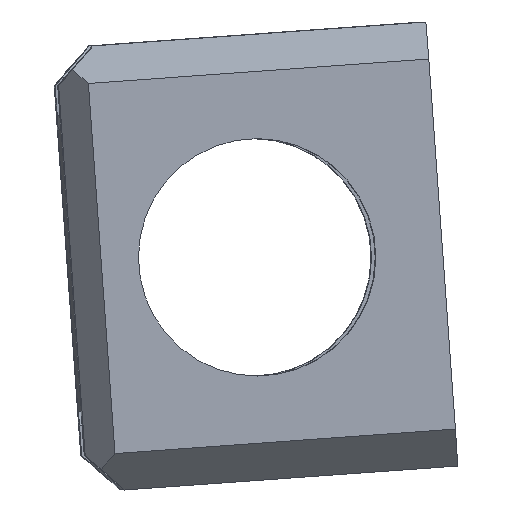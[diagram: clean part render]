
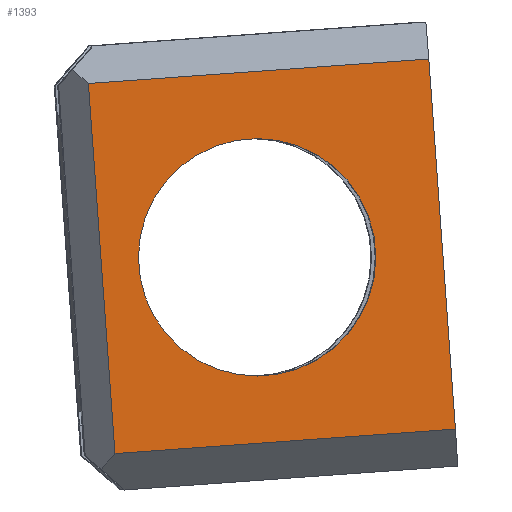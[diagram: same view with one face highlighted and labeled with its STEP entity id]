
A CAD part, left-side view. The second image highlights one B-rep face of the part: STEP entity #1393.
In plain terms, the highlighted planar face has unit normal (-1, -0.008, 0).
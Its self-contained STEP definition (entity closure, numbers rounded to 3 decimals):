
#45=FACE_BOUND('',#248,.T.);
#95=PLANE('',#1524);
#163=FACE_OUTER_BOUND('',#247,.T.);
#247=EDGE_LOOP('',(#1294,#1295,#1296,#1297));
#248=EDGE_LOOP('',(#1298));
#349=LINE('',#2228,#496);
#395=LINE('',#2401,#542);
#397=LINE('',#2404,#544);
#398=LINE('',#2406,#545);
#496=VECTOR('',#1773,10.);
#542=VECTOR('',#1893,10.);
#544=VECTOR('',#1897,10.);
#545=VECTOR('',#1900,10.);
#584=CIRCLE('',#1506,16.);
#680=VERTEX_POINT('',#2225);
#681=VERTEX_POINT('',#2227);
#700=VERTEX_POINT('',#2335);
#717=VERTEX_POINT('',#2398);
#718=VERTEX_POINT('',#2400);
#849=EDGE_CURVE('',#681,#680,#349,.T.);
#880=EDGE_CURVE('',#700,#700,#584,.T.);
#913=EDGE_CURVE('',#717,#718,#395,.T.);
#915=EDGE_CURVE('',#718,#680,#397,.T.);
#916=EDGE_CURVE('',#681,#717,#398,.T.);
#1294=ORIENTED_EDGE('',*,*,#915,.F.);
#1295=ORIENTED_EDGE('',*,*,#913,.F.);
#1296=ORIENTED_EDGE('',*,*,#916,.F.);
#1297=ORIENTED_EDGE('',*,*,#849,.T.);
#1298=ORIENTED_EDGE('',*,*,#880,.T.);
#1393=ADVANCED_FACE('',(#163,#45),#95,.T.);
#1506=AXIS2_PLACEMENT_3D('',#2337,#1830,#1831);
#1524=AXIS2_PLACEMENT_3D('',#2405,#1898,#1899);
#1773=DIRECTION('',(-0.001,0.072,0.997));
#1830=DIRECTION('center_axis',(1.,0.008,0.));
#1831=DIRECTION('ref_axis',(0.,0.,-1.));
#1893=DIRECTION('',(-0.001,0.072,0.997));
#1897=DIRECTION('',(0.008,-0.997,0.072));
#1898=DIRECTION('center_axis',(-1.,-0.008,
0.));
#1899=DIRECTION('ref_axis',(-0.001,0.072,0.997));
#1900=DIRECTION('',(-0.008,0.997,-0.072));
#2225=CARTESIAN_POINT('',(21.562,-334.771,571.724));
#2227=CARTESIAN_POINT('',(21.59,-338.355,521.852));
#2228=CARTESIAN_POINT('',(21.593,-338.713,516.865));
#2335=CARTESIAN_POINT('',(21.382,-311.628,560.996));
#2337=CARTESIAN_POINT('Origin',(21.382,-311.628,544.996));
#2398=CARTESIAN_POINT('',(21.234,-292.475,518.555));
#2400=CARTESIAN_POINT('',(21.206,-288.891,568.426));
#2401=CARTESIAN_POINT('',(21.228,-291.758,528.529));
#2404=CARTESIAN_POINT('',(21.368,-309.836,569.932));
#2405=CARTESIAN_POINT('Origin',(21.399,-313.779,515.073));
#2406=CARTESIAN_POINT('',(21.396,-313.42,520.06));
